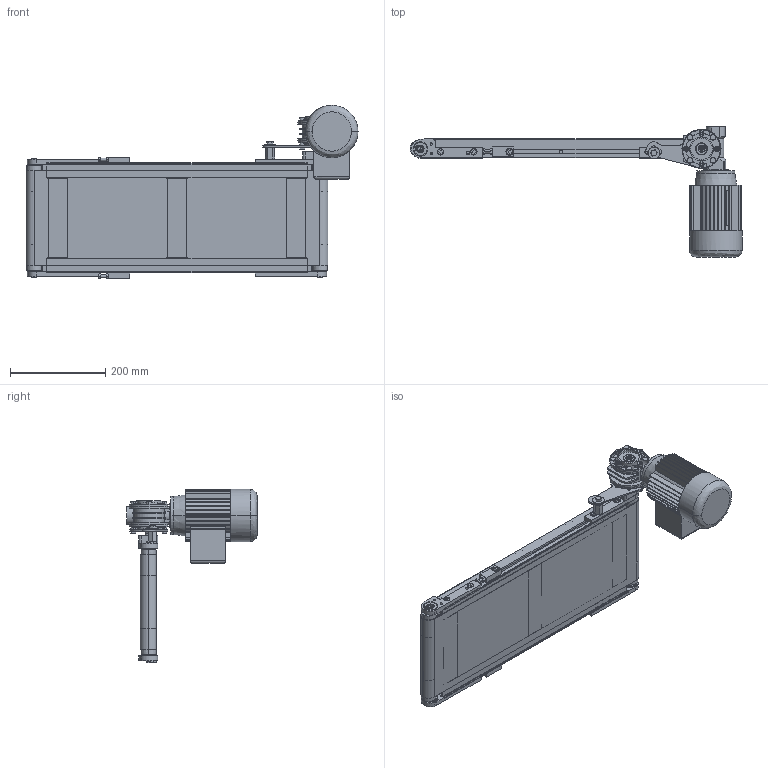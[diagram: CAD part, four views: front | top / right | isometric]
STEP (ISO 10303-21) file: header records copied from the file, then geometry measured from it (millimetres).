
FILE_DESCRIPTION (( 'STEP AP203' ), '1' );
FILE_NAME ('NASTRO_RETTILINEO_TAPPETO.step', '2026-04-21T11:31:05', ( 'Utente Windows' ), ( '' ), 'SwSTEP 2.0', 'SolidWorks 2024', '' );
FILE_SCHEMA (( 'CONFIG_CONTROL_DESIGN' ));
Length unit declared in the file: millimetre
Products named in the file (31): VITE_RONDELLA_M8X20; 084.801.027 dx; 084.801.027 sx; RONDELLE UNI 6592_6.4x12.5 UNI 6592; GRANI A PUNTA PIATTA UNI 5923_M8x20 UNI 5923; 084.301.000 VITI ALUSIC_084.301.011; TELAIO_30_STANDARD_Default<A macchina>; 084.802.062; VITI TE UNI 5739_M6x10 UNI 5739; 62012RSBOMB_62012RSBOMB; 084.807.005; VITI TE UNI 5739_M8x16 UNI 5739; 084.301.000 VITI ALUSIC_084.301.002; 084.302.000 DADI ALUSIC 13x13-1_084.302.004; BLOCCO_RINVIO_30_STANDARD_SX; TAPPETO_STANDARD; BLOCCO_RINVIO_30_STANDARD_DX; 084.303.001; 084.802.008; BLOCCO_TRAINO_30_STANDARD_30_DX_MOTORE A SINISTRA; BLOCCO_TRAINO_30_STANDARD_SX_MOTORE A SINISTRA; RONDELLE FASCIA LARGA UNI 6593_8.4x24 UNI 6593; CH03P_DX; RULLO_30_RINVIO; NASTRO_RETTILINEO_TAPPETO; 084.301.000 VITI ALUSIC_084.301.003; LAMIERA_STANDARD; 084.801.025; CUSCINETTI CB_CB 202; RULLO_30_TRAINO_30_DX; 084.802.027
Assembly tree (62 placements, depth 3):
  NASTRO_RETTILINEO_TAPPETO
    TAPPETO_STANDARD
    TELAIO_30_STANDARD_Default<A macchina>
    LAMIERA_STANDARD
    RULLO_30_TRAINO_30_DX
    BLOCCO_TRAINO_30_STANDARD_30_DX_MOTORE A SINISTRA
      084.802.027
      084.807.005
      084.801.027 dx
      084.801.025
      CUSCINETTI CB_CB 202
      084.301.000 VITI ALUSIC_084.301.002  x2
      084.302.000 DADI ALUSIC 13x13-1_084.302.004  x2
      084.301.000 VITI ALUSIC_084.301.011  x2
      VITI TE UNI 5739_M8x16 UNI 5739
      RONDELLE FASCIA LARGA UNI 6593_8.4x24 UNI 6593
      GRANI A PUNTA PIATTA UNI 5923_M8x20 UNI 5923
      RONDELLE UNI 6592_6.4x12.5 UNI 6592  x4
      VITI TE UNI 5739_M6x10 UNI 5739  x4
      084.802.062
    BLOCCO_TRAINO_30_STANDARD_SX_MOTORE A SINISTRA
      084.801.027 sx
      62012RSBOMB_62012RSBOMB
      084.302.000 DADI ALUSIC 13x13-1_084.302.004  x2
      084.301.000 VITI ALUSIC_084.301.002  x2
    RULLO_30_RINVIO
    BLOCCO_RINVIO_30_STANDARD_SX
      084.802.008
      084.801.027 sx
      62012RSBOMB_62012RSBOMB
      084.302.000 DADI ALUSIC 13x13-1_084.302.004  x3
      084.301.000 VITI ALUSIC_084.301.002  x2
      084.301.000 VITI ALUSIC_084.301.003
    BLOCCO_RINVIO_30_STANDARD_DX
      084.802.008
      084.801.027 dx
      62012RSBOMB_62012RSBOMB
      084.302.000 DADI ALUSIC 13x13-1_084.302.004  x3
      084.301.000 VITI ALUSIC_084.301.002  x2
      084.301.000 VITI ALUSIC_084.301.003
    VITE_RONDELLA_M8X20  x3
      084.303.001
      084.301.000 VITI ALUSIC_084.301.003
    CH03P_DX
Bounding box: 697 x 273 x 364 mm (x, y, z)
Volume: 3869028.5 mm3; surface area: 1591954.7 mm2
Topology: 67 solids, 69 shells, 2017 faces, 5097 edges, 3283 vertices
Faces by surface type: plane 1030, cylinder 665, cone 154, torus 98, bspline 50, sphere 20
Entity records: 44172 total; most frequent: CARTESIAN_POINT 7938, DIRECTION 7001, ORIENTED_EDGE 6496, EDGE_CURVE 3248, AXIS2_PLACEMENT_3D 2562, VERTEX_POINT 2089, VECTOR 1877, LINE 1877
